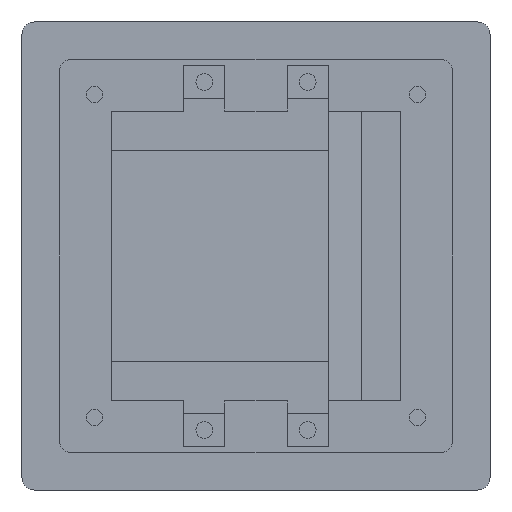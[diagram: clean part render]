
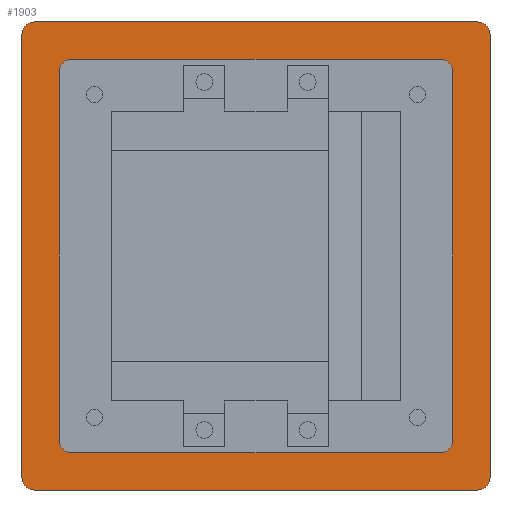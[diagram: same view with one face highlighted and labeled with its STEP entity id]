
A CAD part, front view. The second image highlights one B-rep face of the part: STEP entity #1903.
In plain terms, the highlighted planar face has unit normal (0, -1, 0).
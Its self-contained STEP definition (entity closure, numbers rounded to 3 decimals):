
#935 = EDGE_CURVE( '', #1997, #1399, #2589, .T. );
#991 = EDGE_CURVE( '', #1269, #2163, #2655, .T. );
#1077 = VERTEX_POINT( '', #2753 );
#1081 = VERTEX_POINT( '', #2757 );
#1179 = EDGE_CURVE( '', #2459, #1649, #2863, .T. );
#1227 = VERTEX_POINT( '', #2917 );
#1251 = VERTEX_POINT( '', #2942 );
#1259 = EDGE_CURVE( '', #1399, #1997, #2950, .T. );
#1269 = VERTEX_POINT( '', #2961 );
#1329 = EDGE_CURVE( '', #2137, #2203, #3028, .T. );
#1399 = VERTEX_POINT( '', #3105 );
#1467 = EDGE_CURVE( '', #2271, #2481, #3183, .T. );
#1493 = EDGE_CURVE( '', #2407, #1735, #3211, .T. );
#1567 = EDGE_CURVE( '', #1735, #2407, #3293, .T. );
#1647 = EDGE_CURVE( '', #2203, #2137, #3381, .T. );
#1649 = VERTEX_POINT( '', #3383 );
#1717 = EDGE_CURVE( '', #1649, #2459, #3458, .T. );
#1735 = VERTEX_POINT( '', #3476 );
#1749 = EDGE_CURVE( '', #1227, #1077, #3492, .T. );
#1833 = VERTEX_POINT( '', #3591 );
#1897 = EDGE_CURVE( '', #1081, #1251, #3662, .T. );
#1903 = ADVANCED_FACE( '', ( #3668, #3669, #3670, #3671, #3672, #3673 ), #3674, .F. );
#1977 = EDGE_CURVE( '', #2481, #1081, #3757, .T. );
#1997 = VERTEX_POINT( '', #3779 );
#2017 = EDGE_CURVE( '', #1077, #1833, #3801, .T. );
#2047 = VERTEX_POINT( '', #3836 );
#2057 = EDGE_CURVE( '', #2047, #2271, #3847, .T. );
#2137 = VERTEX_POINT( '', #3938 );
#2163 = VERTEX_POINT( '', #3965 );
#2203 = VERTEX_POINT( '', #4010 );
#2211 = EDGE_CURVE( '', #2163, #1269, #4020, .T. );
#2271 = VERTEX_POINT( '', #4084 );
#2403 = EDGE_CURVE( '', #1251, #1227, #4228, .T. );
#2407 = VERTEX_POINT( '', #4232 );
#2459 = VERTEX_POINT( '', #4292 );
#2475 = EDGE_CURVE( '', #1833, #2047, #4310, .T. );
#2481 = VERTEX_POINT( '', #4316 );
#2589 = CIRCLE( '', #4442, 2. );
#2655 = CIRCLE( '', #4524, 25. );
#2753 = CARTESIAN_POINT( '', ( -53.5, 38.8, -56.5 ) );
#2757 = CARTESIAN_POINT( '', ( 56.5, 38.8, 53.5 ) );
#2863 = CIRCLE( '', #4805, 2. );
#2917 = CARTESIAN_POINT( '', ( 53.5, 38.8, -56.5 ) );
#2942 = CARTESIAN_POINT( '', ( 56.5, 38.8, -53.5 ) );
#2950 = CIRCLE( '', #4926, 2. );
#2961 = CARTESIAN_POINT( '', ( 25., 38.8, 0. ) );
#3028 = CIRCLE( '', #5034, 2. );
#3105 = CARTESIAN_POINT( '', ( 41., 38.8, 39. ) );
#3183 = LINE( '', #5235, #5236 );
#3211 = CIRCLE( '', #5273, 2. );
#3293 = CIRCLE( '', #5377, 2. );
#3381 = CIRCLE( '', #5499, 2. );
#3383 = CARTESIAN_POINT( '', ( -41., 38.8, -39. ) );
#3458 = CIRCLE( '', #5601, 2. );
#3476 = CARTESIAN_POINT( '', ( -37., 38.8, 39. ) );
#3492 = LINE( '', #5649, #5650 );
#3591 = CARTESIAN_POINT( '', ( -56.5, 38.8, -53.5 ) );
#3662 = LINE( '', #5865, #5866 );
#3668 = FACE_BOUND( '', #5872, .T. );
#3669 = FACE_OUTER_BOUND( '', #5873, .T. );
#3670 = FACE_BOUND( '', #5874, .T. );
#3671 = FACE_BOUND( '', #5875, .T. );
#3672 = FACE_BOUND( '', #5876, .T. );
#3673 = FACE_BOUND( '', #5877, .T. );
#3674 = PLANE( '', #5878 );
#3757 = CIRCLE( '', #5993, 3. );
#3779 = CARTESIAN_POINT( '', ( 37., 38.8, 39. ) );
#3801 = CIRCLE( '', #6054, 3. );
#3836 = CARTESIAN_POINT( '', ( -56.5, 38.8, 53.5 ) );
#3847 = CIRCLE( '', #6114, 3. );
#3938 = CARTESIAN_POINT( '', ( 37., 38.8, -39. ) );
#3965 = CARTESIAN_POINT( '', ( -25., 38.8, 0. ) );
#4010 = CARTESIAN_POINT( '', ( 41., 38.8, -39. ) );
#4020 = CIRCLE( '', #6344, 25. );
#4084 = CARTESIAN_POINT( '', ( -53.5, 38.8, 56.5 ) );
#4228 = CIRCLE( '', #6618, 3. );
#4232 = CARTESIAN_POINT( '', ( -41., 38.8, 39. ) );
#4292 = CARTESIAN_POINT( '', ( -37., 38.8, -39. ) );
#4310 = LINE( '', #6716, #6717 );
#4316 = CARTESIAN_POINT( '', ( 53.5, 38.8, 56.5 ) );
#4442 = AXIS2_PLACEMENT_3D( '', #6818, #6819, #6820 );
#4524 = AXIS2_PLACEMENT_3D( '', #6915, #6916, #6917 );
#4805 = AXIS2_PLACEMENT_3D( '', #7172, #7173, #7174 );
#4926 = AXIS2_PLACEMENT_3D( '', #7267, #7268, #7269 );
#5034 = AXIS2_PLACEMENT_3D( '', #7384, #7385, #7386 );
#5235 = CARTESIAN_POINT( '', ( -53.5, 38.8, 56.5 ) );
#5236 = VECTOR( '', #7577, 1. );
#5273 = AXIS2_PLACEMENT_3D( '', #7602, #7603, #7604 );
#5377 = AXIS2_PLACEMENT_3D( '', #7684, #7685, #7686 );
#5499 = AXIS2_PLACEMENT_3D( '', #7782, #7783, #7784 );
#5601 = AXIS2_PLACEMENT_3D( '', #7885, #7886, #7887 );
#5649 = CARTESIAN_POINT( '', ( 53.5, 38.8, -56.5 ) );
#5650 = VECTOR( '', #7914, 1. );
#5865 = CARTESIAN_POINT( '', ( 56.5, 38.8, 53.5 ) );
#5866 = VECTOR( '', #8120, 1. );
#5872 = EDGE_LOOP( '', ( #8122, #8123 ) );
#5873 = EDGE_LOOP( '', ( #8124, #8125, #8126, #8127, #8128, #8129, #8130, #8131 ) );
#5874 = EDGE_LOOP( '', ( #8132, #8133 ) );
#5875 = EDGE_LOOP( '', ( #8134, #8135 ) );
#5876 = EDGE_LOOP( '', ( #8136, #8137 ) );
#5877 = EDGE_LOOP( '', ( #8138, #8139 ) );
#5878 = AXIS2_PLACEMENT_3D( '', #8140, #8141, #8142 );
#5993 = AXIS2_PLACEMENT_3D( '', #8227, #8228, #8229 );
#6054 = AXIS2_PLACEMENT_3D( '', #8283, #8284, #8285 );
#6114 = AXIS2_PLACEMENT_3D( '', #8354, #8355, #8356 );
#6344 = AXIS2_PLACEMENT_3D( '', #8547, #8548, #8549 );
#6618 = AXIS2_PLACEMENT_3D( '', #8759, #8760, #8761 );
#6716 = CARTESIAN_POINT( '', ( -56.5, 38.8, -53.5 ) );
#6717 = VECTOR( '', #8867, 1. );
#6818 = CARTESIAN_POINT( '', ( 39., 38.8, 39. ) );
#6819 = DIRECTION( '', ( 0., 1., 0. ) );
#6820 = DIRECTION( '', ( 1., 0., 0. ) );
#6915 = CARTESIAN_POINT( '', ( 0., 38.8, 0. ) );
#6916 = DIRECTION( '', ( 0., 1., 0. ) );
#6917 = DIRECTION( '', ( 1., 0., 0. ) );
#7172 = CARTESIAN_POINT( '', ( -39., 38.8, -39. ) );
#7173 = DIRECTION( '', ( 0., 1., 0. ) );
#7174 = DIRECTION( '', ( 1., 0., 0. ) );
#7267 = CARTESIAN_POINT( '', ( 39., 38.8, 39. ) );
#7268 = DIRECTION( '', ( 0., 1., 0. ) );
#7269 = DIRECTION( '', ( 1., 0., 0. ) );
#7384 = CARTESIAN_POINT( '', ( 39., 38.8, -39. ) );
#7385 = DIRECTION( '', ( 0., 1., 0. ) );
#7386 = DIRECTION( '', ( 1., 0., 0. ) );
#7577 = DIRECTION( '', ( 1., 0., 0. ) );
#7602 = CARTESIAN_POINT( '', ( -39., 38.8, 39. ) );
#7603 = DIRECTION( '', ( 0., 1., 0. ) );
#7604 = DIRECTION( '', ( 1., 0., 0. ) );
#7684 = CARTESIAN_POINT( '', ( -39., 38.8, 39. ) );
#7685 = DIRECTION( '', ( 0., 1., 0. ) );
#7686 = DIRECTION( '', ( 1., 0., 0. ) );
#7782 = CARTESIAN_POINT( '', ( 39., 38.8, -39. ) );
#7783 = DIRECTION( '', ( 0., 1., 0. ) );
#7784 = DIRECTION( '', ( 1., 0., 0. ) );
#7885 = CARTESIAN_POINT( '', ( -39., 38.8, -39. ) );
#7886 = DIRECTION( '', ( 0., 1., 0. ) );
#7887 = DIRECTION( '', ( 1., 0., 0. ) );
#7914 = DIRECTION( '', ( -1., 0., 0. ) );
#8120 = DIRECTION( '', ( 0., 0., -1. ) );
#8122 = ORIENTED_EDGE( '', *, *, #991, .T. );
#8123 = ORIENTED_EDGE( '', *, *, #2211, .T. );
#8124 = ORIENTED_EDGE( '', *, *, #2057, .F. );
#8125 = ORIENTED_EDGE( '', *, *, #2475, .F. );
#8126 = ORIENTED_EDGE( '', *, *, #2017, .F. );
#8127 = ORIENTED_EDGE( '', *, *, #1749, .F. );
#8128 = ORIENTED_EDGE( '', *, *, #2403, .F. );
#8129 = ORIENTED_EDGE( '', *, *, #1897, .F. );
#8130 = ORIENTED_EDGE( '', *, *, #1977, .F. );
#8131 = ORIENTED_EDGE( '', *, *, #1467, .F. );
#8132 = ORIENTED_EDGE( '', *, *, #1259, .T. );
#8133 = ORIENTED_EDGE( '', *, *, #935, .T. );
#8134 = ORIENTED_EDGE( '', *, *, #1647, .T. );
#8135 = ORIENTED_EDGE( '', *, *, #1329, .T. );
#8136 = ORIENTED_EDGE( '', *, *, #1567, .T. );
#8137 = ORIENTED_EDGE( '', *, *, #1493, .T. );
#8138 = ORIENTED_EDGE( '', *, *, #1179, .T. );
#8139 = ORIENTED_EDGE( '', *, *, #1717, .T. );
#8140 = CARTESIAN_POINT( '', ( 0., 38.8, 0. ) );
#8141 = DIRECTION( '', ( 0., 1., 0. ) );
#8142 = DIRECTION( '', ( 1., 0., 0. ) );
#8227 = CARTESIAN_POINT( '', ( 53.5, 38.8, 53.5 ) );
#8228 = DIRECTION( '', ( 0., 1., 0. ) );
#8229 = DIRECTION( '', ( 0., 0., 1. ) );
#8283 = CARTESIAN_POINT( '', ( -53.5, 38.8, -53.5 ) );
#8284 = DIRECTION( '', ( 0., 1., 0. ) );
#8285 = DIRECTION( '', ( 0., 0., -1. ) );
#8354 = CARTESIAN_POINT( '', ( -53.5, 38.8, 53.5 ) );
#8355 = DIRECTION( '', ( 0., 1., 0. ) );
#8356 = DIRECTION( '', ( -1., 0., 0. ) );
#8547 = CARTESIAN_POINT( '', ( 0., 38.8, 0. ) );
#8548 = DIRECTION( '', ( 0., 1., 0. ) );
#8549 = DIRECTION( '', ( 1., 0., 0. ) );
#8759 = CARTESIAN_POINT( '', ( 53.5, 38.8, -53.5 ) );
#8760 = DIRECTION( '', ( 0., 1., 0. ) );
#8761 = DIRECTION( '', ( 1., 0., 0. ) );
#8867 = DIRECTION( '', ( 0., 0., 1. ) );
